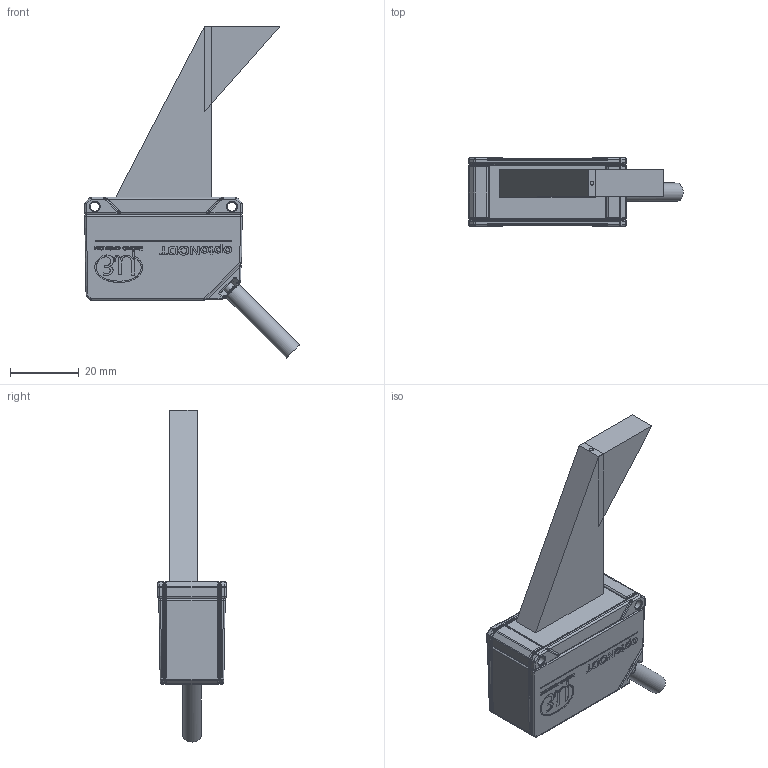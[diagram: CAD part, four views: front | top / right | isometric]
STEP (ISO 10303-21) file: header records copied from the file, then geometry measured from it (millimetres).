
FILE_DESCRIPTION (( 'STEP AP214' ), '1' );
FILE_NAME ('ILD1320-1420_MB25.STEP', '2017-02-09T08:43:41', ( '' ), ( '' ), 'SwSTEP 2.0', 'SolidWorks 2016', '' );
FILE_SCHEMA (( 'AUTOMOTIVE_DESIGN' ));
Length unit declared in the file: millimetre
Products named in the file (5): ILD1320-1420_MB25; reflexion_free_space_MB25_000; laserbeam_tolerance_000; ILD1320-1420_000; optical_free_space_MB25_000
Assembly tree (4 placements, depth 2):
  ILD1320-1420_MB25
    ILD1320-1420_000
    laserbeam_tolerance_000
    optical_free_space_MB25_000
    reflexion_free_space_MB25_000
Bounding box: 62.64 x 20 x 96.9 mm (x, y, z)
Volume: 33450.3 mm3; surface area: 12451.3 mm2
Topology: 6 solids, 8 shells, 1767 faces, 4426 edges, 2696 vertices
Faces by surface type: bspline 840, plane 567, cylinder 348, cone 12
Full cylindrical faces by diameter (mm): 2.7 x2, 3 x2, 3.3 x1, 5.4 x1
Entity records: 66604 total; most frequent: CARTESIAN_POINT 31102, ORIENTED_EDGE 8684, DIRECTION 4875, EDGE_CURVE 4342, VERTEX_POINT 2682, LINE 2001, VECTOR 2001, EDGE_LOOP 1862
